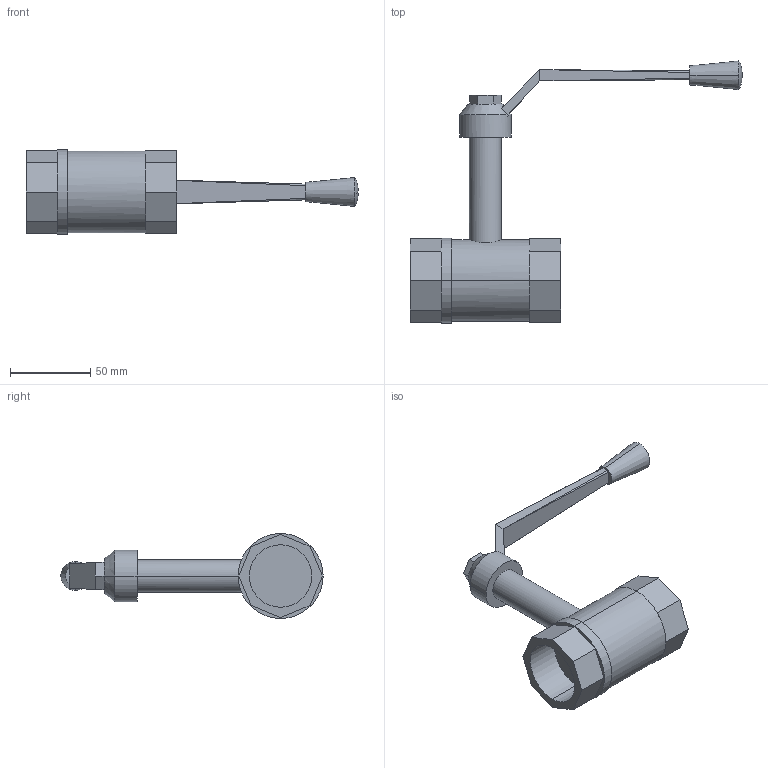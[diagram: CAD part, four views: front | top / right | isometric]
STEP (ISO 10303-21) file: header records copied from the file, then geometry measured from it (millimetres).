
FILE_DESCRIPTION(('Creo Elements/Direct Modeling STEP Export'),'2;1');
FILE_NAME('1640070000.stp','2021-05-24T12:02:04',(''),(''),'Creo Elements/Direct Modeling STEP processor for AP214 (Solid Model)','Creo Elements/Direct Modeling 20.1D 10-Oct-2020 (C) Parametric Technology GmbH','');
FILE_SCHEMA(('AUTOMOTIVE_DESIGN { 1 0 10303 214 1 1 1 1 }'));
Length unit declared in the file: millimetre
Products named in the file (2): 1640070000
Assembly tree (1 placements, depth 2):
  1640070000
    1640070000
Bounding box: 207 x 163.48 x 53 mm (x, y, z)
Volume: 189399.1 mm3; surface area: 38237.5 mm2
Topology: 1 solids, 1 shells, 80 faces, 197 edges, 123 vertices
Faces by surface type: plane 57, cylinder 12, cone 5, bspline 4, torus 2
Entity records: 2308 total; most frequent: CARTESIAN_POINT 483, ORIENTED_EDGE 386, DIRECTION 348, EDGE_CURVE 193, VERTEX_POINT 123, VECTOR 120, LINE 120, AXIS2_PLACEMENT_3D 114
